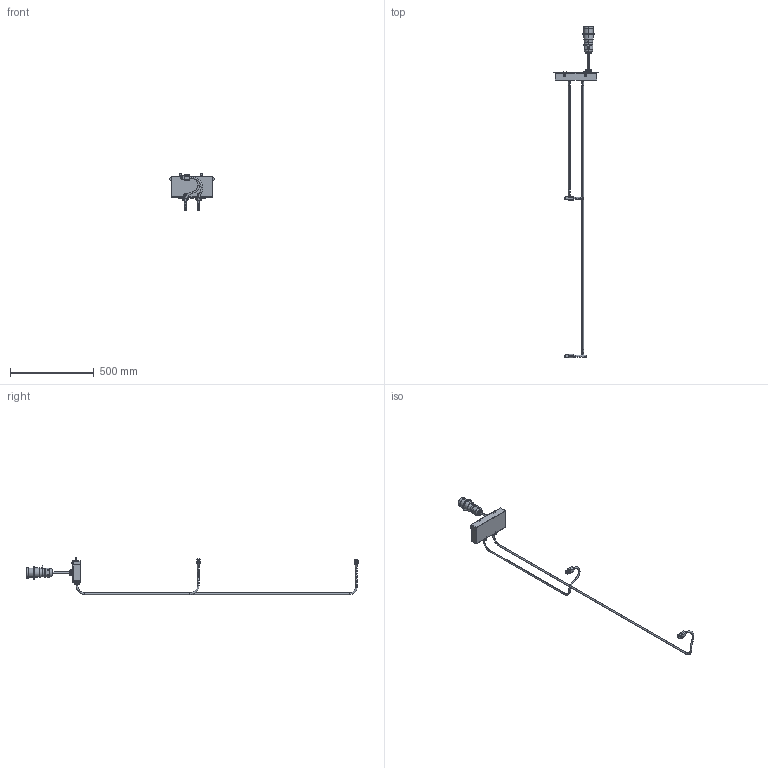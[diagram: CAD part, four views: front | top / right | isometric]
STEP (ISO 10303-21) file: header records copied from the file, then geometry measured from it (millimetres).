
FILE_DESCRIPTION (( 'STEP AP214' ), '1' );
FILE_NAME ('07-000795 PDU, AC, 230V,SPLIT,EU,V2.STEP', '2015-02-13T18:07:07', ( 'Windows User' ), ( 'Facebook, Inc.' ), 'SwSTEP 2.0', 'SolidWorks 2014', '' );
FILE_SCHEMA (( 'AUTOMOTIVE_DESIGN' ));
Length unit declared in the file: millimetre
Products named in the file (11): C AC PLUG IEC309 5PIN GRND 6H; Plug IEC 320 C13 BENT; X OPR AC PDU FUSE 300V; C REC 2X3 AC POSITRONIC PLB06F7000-AA; X OR2 AC PDU WIRE OUTPUT2; S OR2 BBU SPRING LATCH; X OR2 AC PDU WIRE OUTPUT1; X OR2 STRAIN RELIEF 9-16MM DIA SEALCON CD21AR-BK; C TERMINAL BLOCK 5P 30 AMP TE 1546310-5; S OR2 AC INPUT PLATE 3 BASE_AC VERSION; 07-000795 PDU, AC, 230V,SPLIT,EU,V2
Assembly tree (12 placements, depth 2):
  Plug IEC 320 C13 BENT
  X OPR AC PDU FUSE 300V
  07-000795 PDU, AC, 230V,SPLIT,EU,V2
    S OR2 AC INPUT PLATE 3 BASE_AC VERSION
    C TERMINAL BLOCK 5P 30 AMP TE 1546310-5
    X OR2 STRAIN RELIEF 9-16MM DIA SEALCON CD21AR-BK  x3
    X OR2 AC PDU WIRE OUTPUT1
    S OR2 BBU SPRING LATCH  x2
    X OR2 AC PDU WIRE OUTPUT2
    C REC 2X3 AC POSITRONIC PLB06F7000-AA  x2
    C AC PLUG IEC309 5PIN GRND 6H
Bounding box: 263.6 x 1980.13 x 221.63 mm (x, y, z)
Volume: 753589.2 mm3; surface area: 391648.8 mm2
Topology: 15 solids, 15 shells, 1375 faces, 3322 edges, 2034 vertices
Faces by surface type: plane 551, cylinder 403, cone 230, bspline 104, torus 79, sphere 8
Entity records: 38844 total; most frequent: CARTESIAN_POINT 14684, DIRECTION 4563, ORIENTED_EDGE 4562, EDGE_CURVE 2281, AXIS2_PLACEMENT_3D 1724, VERTEX_POINT 1411, LINE 1115, VECTOR 1115
